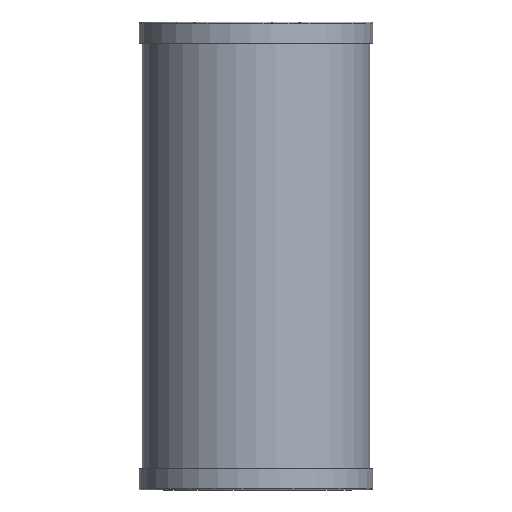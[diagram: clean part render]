
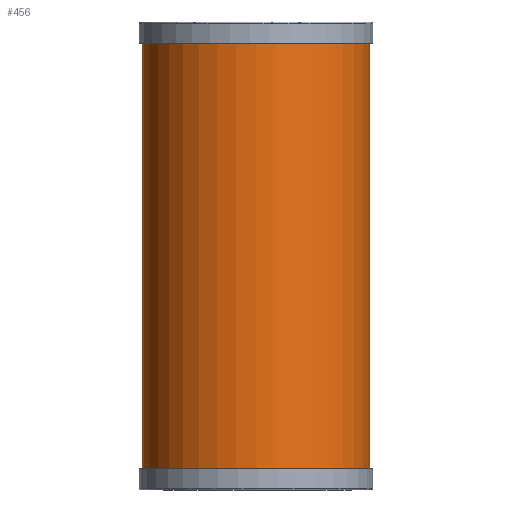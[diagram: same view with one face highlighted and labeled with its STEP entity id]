
A CAD part, front view. The second image highlights one B-rep face of the part: STEP entity #456.
In plain terms, the highlighted cylindrical face has radius 33.909 mm (diameter 67.818 mm), a full revolution.
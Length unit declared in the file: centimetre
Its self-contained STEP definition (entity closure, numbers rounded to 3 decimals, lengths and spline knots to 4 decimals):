
#348=VERTEX_POINT('',#553);
#349=VERTEX_POINT('',#555);
#360=CIRCLE('',#469,3.3909);
#361=CIRCLE('',#470,3.3909);
#372=EDGE_CURVE('',#348,#348,#360,.T.);
#373=EDGE_CURVE('',#349,#349,#361,.T.);
#384=ORIENTED_EDGE('',*,*,#372,.T.);
#385=ORIENTED_EDGE('',*,*,#373,.T.);
#408=EDGE_LOOP('',(#384));
#409=EDGE_LOOP('',(#385));
#432=FACE_BOUND('',#408,.T.);
#433=FACE_BOUND('',#409,.T.);
#456=ADVANCED_FACE('',(#432,#433),#593,.T.);
#468=AXIS2_PLACEMENT_3D('',#551,#498,#499);
#469=AXIS2_PLACEMENT_3D('',#552,#500,#501);
#470=AXIS2_PLACEMENT_3D('',#554,#502,#503);
#498=DIRECTION('',(0.,0.,1.));
#499=DIRECTION('',(3.391,0.,0.));
#500=DIRECTION('',(0.,0.,-1.));
#501=DIRECTION('',(3.391,0.,0.));
#502=DIRECTION('',(0.,0.,1.));
#503=DIRECTION('',(3.391,0.,0.));
#551=CARTESIAN_POINT('',(0.,0.,0.));
#552=CARTESIAN_POINT('',(0.,0.,13.8176));
#553=CARTESIAN_POINT('',(3.3909,0.,13.8176));
#554=CARTESIAN_POINT('',(0.,0.,0.));
#555=CARTESIAN_POINT('',(3.3909,0.,0.));
#593=CYLINDRICAL_SURFACE('',#468,3.3909);
